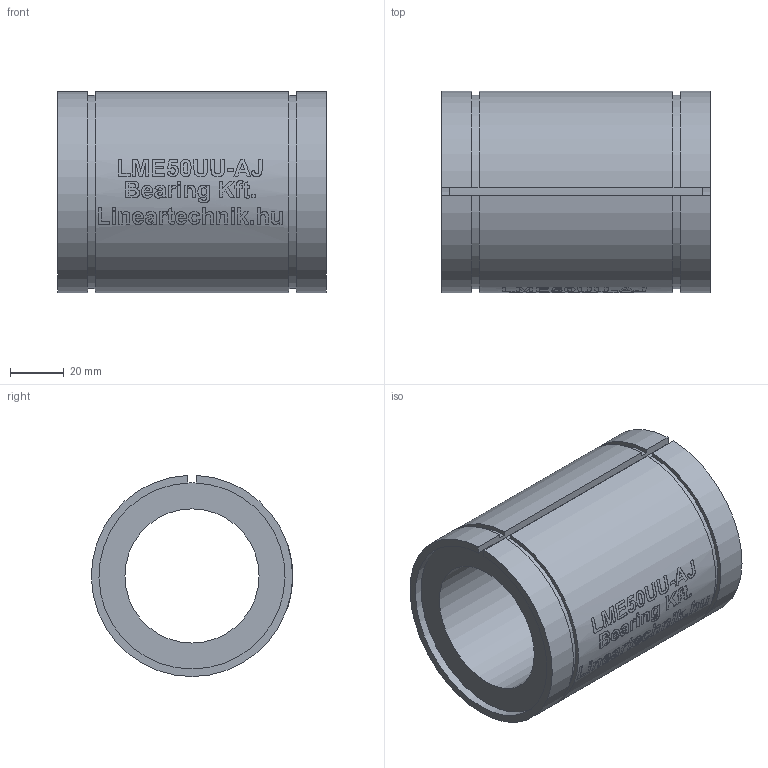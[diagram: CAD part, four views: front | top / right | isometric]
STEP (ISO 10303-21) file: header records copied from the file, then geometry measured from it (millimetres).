
FILE_DESCRIPTION(/* description */ (''),/* implementation_level */ '2;1');
FILE_NAME(/* name */ 'LME50UU-AJ',/* time_stamp */ '2019-07-02T12:06:15+02:00',/* author */ ('VĂ©gh MĂˇtĂ©'),/* organization */ ('Bearing Kft'),/* preprocessor_version */ 'ST-DEVELOPER v16.7',/* originating_system */ 'DEX',/* authorisation */ $);
FILE_SCHEMA (('AUTOMOTIVE_DESIGN {1 0 10303 214 3 1 1}'));
Length unit declared in the file: millimetre
Products named in the file (1): LME50UU-AJ
Bounding box: 100 x 74.99 x 74.97 mm (x, y, z)
Volume: 231850.9 mm3; surface area: 46446.5 mm2
Topology: 1 solids, 1 shells, 344 faces, 873 edges, 581 vertices
Faces by surface type: plane 182, bspline 103, cylinder 59
Full cylindrical faces by diameter (mm): 50 x1
Entity records: 21230 total; most frequent: CARTESIAN_POINT 13450, ORIENTED_EDGE 1736, DIRECTION 1306, EDGE_CURVE 868, VERTEX_POINT 580, LINE 494, VECTOR 494, AXIS2_PLACEMENT_3D 406
